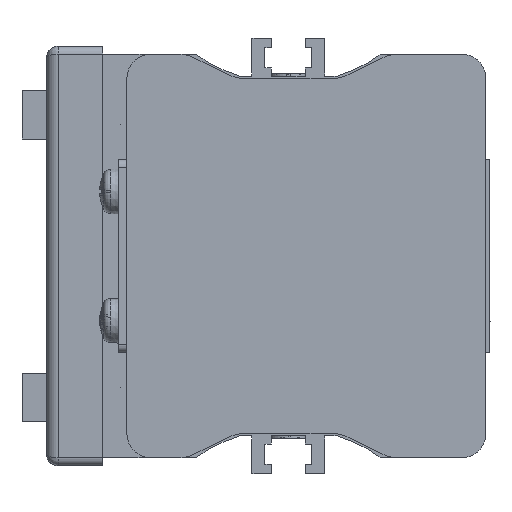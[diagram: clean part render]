
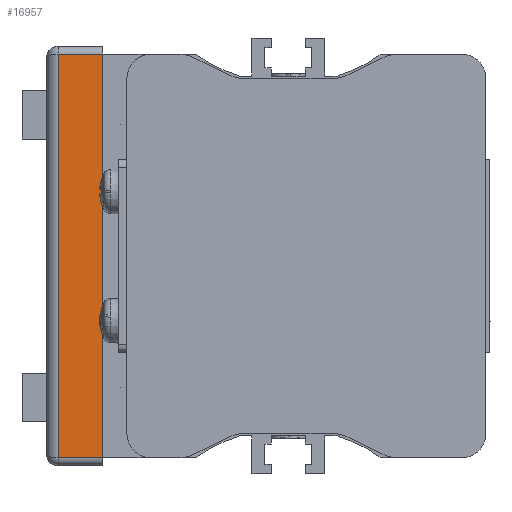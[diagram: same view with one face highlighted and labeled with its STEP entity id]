
A CAD part, left-side view. The second image highlights one B-rep face of the part: STEP entity #16957.
In plain terms, the highlighted planar face has unit normal (-1, 0, 0) as drawn and (0, 0, -1) by its records, which use the part's own axes.
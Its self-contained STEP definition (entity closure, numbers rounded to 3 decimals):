
#2315=LINE('',#32283,#3710);
#2345=LINE('',#32780,#3740);
#2346=LINE('',#32833,#3741);
#2347=LINE('',#32835,#3742);
#3710=VECTOR('',#22676,50.);
#3740=VECTOR('',#22734,50.);
#3741=VECTOR('',#22739,5.5);
#3742=VECTOR('',#22742,5.5);
#4956=FACE_OUTER_BOUND('',#6043,.T.);
#6043=EDGE_LOOP('',(#15375,#15376,#15377,#15378));
#8202=VERTEX_POINT('',#32280);
#8203=VERTEX_POINT('',#32282);
#8231=VERTEX_POINT('',#32645);
#8232=VERTEX_POINT('',#32779);
#10586=EDGE_CURVE('',#8202,#8203,#2315,.T.);
#10627=EDGE_CURVE('',#8232,#8231,#2345,.T.);
#10630=EDGE_CURVE('',#8202,#8232,#2346,.T.);
#10631=EDGE_CURVE('',#8231,#8203,#2347,.T.);
#15375=ORIENTED_EDGE('',*,*,#10627,.T.);
#15376=ORIENTED_EDGE('',*,*,#10631,.T.);
#15377=ORIENTED_EDGE('',*,*,#10586,.F.);
#15378=ORIENTED_EDGE('',*,*,#10630,.T.);
#16034=PLANE('',#18489);
#16957=ADVANCED_FACE('',(#4956),#16034,.T.);
#18489=AXIS2_PLACEMENT_3D('',#32834,#22740,#22741);
#22676=DIRECTION('',(1.,0.,0.));
#22734=DIRECTION('',(1.,0.,0.));
#22739=DIRECTION('',(0.,1.,0.));
#22740=DIRECTION('center_axis',(0.,0.,-1.));
#22741=DIRECTION('ref_axis',(0.,1.,0.));
#22742=DIRECTION('',(0.,-1.,0.));
#32280=CARTESIAN_POINT('',(1.,0.,-97.));
#32282=CARTESIAN_POINT('',(51.,0.,-97.));
#32283=CARTESIAN_POINT('',(1.,0.,-97.));
#32645=CARTESIAN_POINT('',(51.,5.5,-97.));
#32779=CARTESIAN_POINT('',(1.,5.5,-97.));
#32780=CARTESIAN_POINT('',(1.,5.5,-97.));
#32833=CARTESIAN_POINT('',(1.,0.,-97.));
#32834=CARTESIAN_POINT('Origin',(1.,0.,-97.));
#32835=CARTESIAN_POINT('',(51.,5.5,-97.));
